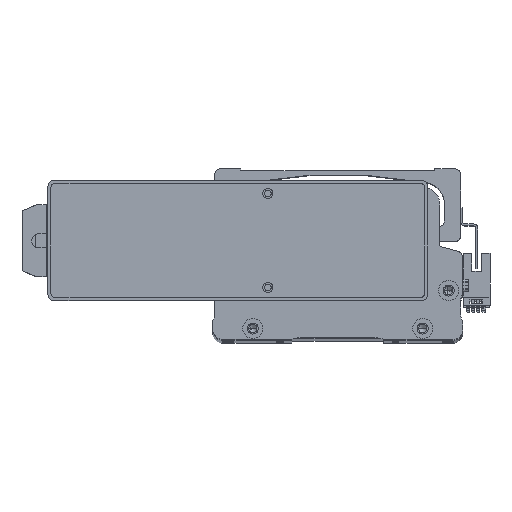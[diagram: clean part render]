
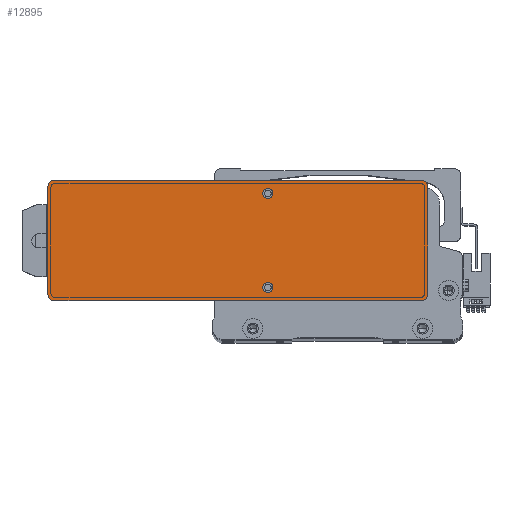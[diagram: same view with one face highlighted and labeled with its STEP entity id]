
A CAD part, top view. The second image highlights one B-rep face of the part: STEP entity #12895.
In plain terms, the highlighted planar face has unit normal (0, 0, 1) as drawn and (0, 0, -1) by its records, which use the part's own axes.
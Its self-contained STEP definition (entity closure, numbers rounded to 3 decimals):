
#248 = VERTEX_POINT ( 'NONE', #52807 ) ;
#447 = CARTESIAN_POINT ( 'NONE',  ( 92., 27., 0. ) ) ;
#542 = CARTESIAN_POINT ( 'NONE',  ( -92., -27., 0. ) ) ;
#2833 = EDGE_CURVE ( 'NONE', #18723, #67060, #46395, .T. ) ;
#3005 = CARTESIAN_POINT ( 'NONE',  ( -92., 27., 0. ) ) ;
#3565 = VECTOR ( 'NONE', #18777, 1000. ) ;
#4626 = EDGE_CURVE ( 'NONE', #73274, #11315, #22995, .T. ) ;
#5620 = EDGE_CURVE ( 'NONE', #9635, #248, #45884, .T. ) ;
#6081 = CARTESIAN_POINT ( 'NONE',  ( 92., -30., 0. ) ) ;
#6683 = DIRECTION ( 'NONE',  ( 1., 0., 0. ) ) ;
#6701 = DIRECTION ( 'NONE',  ( 0., 0., -1. ) ) ;
#6775 = DIRECTION ( 'NONE',  ( 1., 0., 0. ) ) ;
#8297 = CARTESIAN_POINT ( 'NONE',  ( 95., 30., 0. ) ) ;
#8933 = DIRECTION ( 'NONE',  ( 0., 0., -1. ) ) ;
#9190 = DIRECTION ( 'NONE',  ( 1., 0., 0. ) ) ;
#9635 = VERTEX_POINT ( 'NONE', #36518 ) ;
#10648 = CARTESIAN_POINT ( 'NONE',  ( 95., -27., 0. ) ) ;
#11268 = EDGE_CURVE ( 'NONE', #59257, #43224, #66358, .T. ) ;
#11315 = VERTEX_POINT ( 'NONE', #43662 ) ;
#11736 = LINE ( 'NONE', #8297, #77248 ) ;
#12895 = ADVANCED_FACE ( 'NONE', ( #13797, #79268, #15746 ), #44536, .F. ) ;
#13499 = ORIENTED_EDGE ( 'NONE', *, *, #4626, .T. ) ;
#13512 = VERTEX_POINT ( 'NONE', #42403 ) ;
#13749 = DIRECTION ( 'NONE',  ( 1., 0., 0. ) ) ;
#13797 = FACE_BOUND ( 'NONE', #48825, .T. ) ;
#14050 = ORIENTED_EDGE ( 'NONE', *, *, #78910, .F. ) ;
#14511 = DIRECTION ( 'NONE',  ( -1., 0., 0. ) ) ;
#15746 = FACE_BOUND ( 'NONE', #17806, .T. ) ;
#15864 = AXIS2_PLACEMENT_3D ( 'NONE', #24813, #67785, #30980 ) ;
#16426 = EDGE_CURVE ( 'NONE', #20188, #55323, #43111, .T. ) ;
#17806 = EDGE_LOOP ( 'NONE', ( #37433, #29601 ) ) ;
#18723 = VERTEX_POINT ( 'NONE', #27387 ) ;
#18777 = DIRECTION ( 'NONE',  ( 0., 1., 0. ) ) ;
#19783 = EDGE_CURVE ( 'NONE', #43224, #59257, #27469, .T. ) ;
#20188 = VERTEX_POINT ( 'NONE', #10648 ) ;
#22589 = CARTESIAN_POINT ( 'NONE',  ( -12.5, 23.5, 0. ) ) ;
#22737 = DIRECTION ( 'NONE',  ( 0., 0., -1. ) ) ;
#22995 = CIRCLE ( 'NONE', #26771, 3. ) ;
#23421 = DIRECTION ( 'NONE',  ( 0., 0., -1. ) ) ;
#23874 = LINE ( 'NONE', #73972, #3565 ) ;
#24184 = CARTESIAN_POINT ( 'NONE',  ( -95., -30., 0. ) ) ;
#24314 = AXIS2_PLACEMENT_3D ( 'NONE', #75167, #50658, #13749 ) ;
#24813 = CARTESIAN_POINT ( 'NONE',  ( -15., -23.5, 0. ) ) ;
#26771 = AXIS2_PLACEMENT_3D ( 'NONE', #3005, #46170, #9190 ) ;
#27344 = ORIENTED_EDGE ( 'NONE', *, *, #31420, .F. ) ;
#27387 = CARTESIAN_POINT ( 'NONE',  ( -17.5, 23.5, 0. ) ) ;
#27469 = CIRCLE ( 'NONE', #65480, 2.5 ) ;
#29193 = ORIENTED_EDGE ( 'NONE', *, *, #16426, .T. ) ;
#29601 = ORIENTED_EDGE ( 'NONE', *, *, #11268, .F. ) ;
#29850 = ORIENTED_EDGE ( 'NONE', *, *, #60399, .F. ) ;
#30386 = CIRCLE ( 'NONE', #48793, 3. ) ;
#30980 = DIRECTION ( 'NONE',  ( -1., 0., 0. ) ) ;
#31420 = EDGE_CURVE ( 'NONE', #20188, #248, #23874, .T. ) ;
#31482 = AXIS2_PLACEMENT_3D ( 'NONE', #447, #43654, #6683 ) ;
#33868 = ORIENTED_EDGE ( 'NONE', *, *, #71229, .T. ) ;
#36518 = CARTESIAN_POINT ( 'NONE',  ( 92., 30., 0. ) ) ;
#37433 = ORIENTED_EDGE ( 'NONE', *, *, #19783, .F. ) ;
#38088 = VECTOR ( 'NONE', #67174, 1000. ) ;
#38545 = CIRCLE ( 'NONE', #38588, 2.5 ) ;
#38588 = AXIS2_PLACEMENT_3D ( 'NONE', #60226, #23421, #66414 ) ;
#40020 = DIRECTION ( 'NONE',  ( 1., 0., 0. ) ) ;
#42294 = ORIENTED_EDGE ( 'NONE', *, *, #5620, .T. ) ;
#42403 = CARTESIAN_POINT ( 'NONE',  ( -92., -30., 0. ) ) ;
#43111 = CIRCLE ( 'NONE', #45186, 3. ) ;
#43224 = VERTEX_POINT ( 'NONE', #70703 ) ;
#43654 = DIRECTION ( 'NONE',  ( 0., 0., -1. ) ) ;
#43662 = CARTESIAN_POINT ( 'NONE',  ( -92., 30., 0. ) ) ;
#43672 = CARTESIAN_POINT ( 'NONE',  ( -15., -23.5, 0. ) ) ;
#43748 = DIRECTION ( 'NONE',  ( 0., 0., -1. ) ) ;
#44536 = PLANE ( 'NONE',  #24314 ) ;
#45186 = AXIS2_PLACEMENT_3D ( 'NONE', #45890, #8933, #52029 ) ;
#45884 = CIRCLE ( 'NONE', #31482, 3. ) ;
#45890 = CARTESIAN_POINT ( 'NONE',  ( 92., -27., 0. ) ) ;
#46170 = DIRECTION ( 'NONE',  ( 0., 0., -1. ) ) ;
#46395 = CIRCLE ( 'NONE', #77609, 2.5 ) ;
#48659 = CARTESIAN_POINT ( 'NONE',  ( -95., -27., 0. ) ) ;
#48793 = AXIS2_PLACEMENT_3D ( 'NONE', #542, #43748, #6775 ) ;
#48825 = EDGE_LOOP ( 'NONE', ( #79593, #14050 ) ) ;
#49809 = DIRECTION ( 'NONE',  ( -1., 0., 0. ) ) ;
#49852 = ORIENTED_EDGE ( 'NONE', *, *, #65485, .F. ) ;
#50658 = DIRECTION ( 'NONE',  ( 0., 0., 1. ) ) ;
#51064 = EDGE_LOOP ( 'NONE', ( #27344, #29193, #49852, #33868, #62637, #13499, #29850, #42294 ) ) ;
#52029 = DIRECTION ( 'NONE',  ( 1., 0., 0. ) ) ;
#52807 = CARTESIAN_POINT ( 'NONE',  ( 95., 27., 0. ) ) ;
#54398 = LINE ( 'NONE', #70631, #68855 ) ;
#55323 = VERTEX_POINT ( 'NONE', #6081 ) ;
#57090 = EDGE_CURVE ( 'NONE', #73274, #62365, #70743, .T. ) ;
#59257 = VERTEX_POINT ( 'NONE', #79732 ) ;
#59540 = CARTESIAN_POINT ( 'NONE',  ( -15., 23.5, 0. ) ) ;
#60226 = CARTESIAN_POINT ( 'NONE',  ( -15., 23.5, 0. ) ) ;
#60399 = EDGE_CURVE ( 'NONE', #9635, #11315, #11736, .T. ) ;
#62365 = VERTEX_POINT ( 'NONE', #48659 ) ;
#62637 = ORIENTED_EDGE ( 'NONE', *, *, #57090, .F. ) ;
#63738 = CARTESIAN_POINT ( 'NONE',  ( -95., 27., 0. ) ) ;
#65480 = AXIS2_PLACEMENT_3D ( 'NONE', #43672, #6701, #49809 ) ;
#65485 = EDGE_CURVE ( 'NONE', #13512, #55323, #54398, .T. ) ;
#65717 = DIRECTION ( 'NONE',  ( -1., 0., 0. ) ) ;
#66358 = CIRCLE ( 'NONE', #15864, 2.5 ) ;
#66414 = DIRECTION ( 'NONE',  ( -1., 0., 0. ) ) ;
#67060 = VERTEX_POINT ( 'NONE', #22589 ) ;
#67174 = DIRECTION ( 'NONE',  ( 0., -1., 0. ) ) ;
#67785 = DIRECTION ( 'NONE',  ( 0., 0., -1. ) ) ;
#68855 = VECTOR ( 'NONE', #40020, 1000. ) ;
#70631 = CARTESIAN_POINT ( 'NONE',  ( 95., -30., 0. ) ) ;
#70703 = CARTESIAN_POINT ( 'NONE',  ( -17.5, -23.5, 0. ) ) ;
#70743 = LINE ( 'NONE', #24184, #38088 ) ;
#71229 = EDGE_CURVE ( 'NONE', #13512, #62365, #30386, .T. ) ;
#73274 = VERTEX_POINT ( 'NONE', #63738 ) ;
#73972 = CARTESIAN_POINT ( 'NONE',  ( 95., -30., 0. ) ) ;
#75167 = CARTESIAN_POINT ( 'NONE',  ( 0., 0., 0. ) ) ;
#77248 = VECTOR ( 'NONE', #14511, 1000. ) ;
#77609 = AXIS2_PLACEMENT_3D ( 'NONE', #59540, #22737, #65717 ) ;
#78910 = EDGE_CURVE ( 'NONE', #67060, #18723, #38545, .T. ) ;
#79268 = FACE_OUTER_BOUND ( 'NONE', #51064, .T. ) ;
#79593 = ORIENTED_EDGE ( 'NONE', *, *, #2833, .F. ) ;
#79732 = CARTESIAN_POINT ( 'NONE',  ( -12.5, -23.5, 0. ) ) ;
